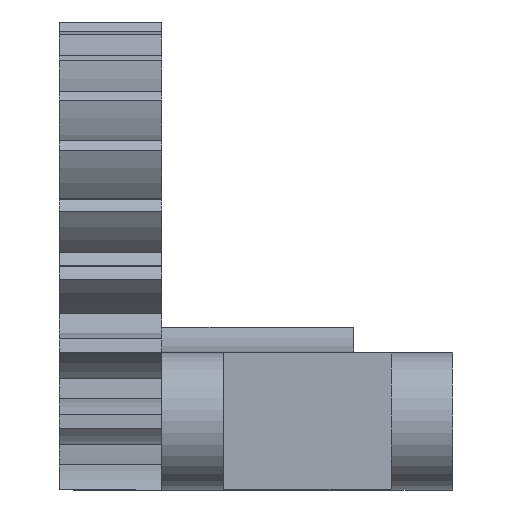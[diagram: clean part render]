
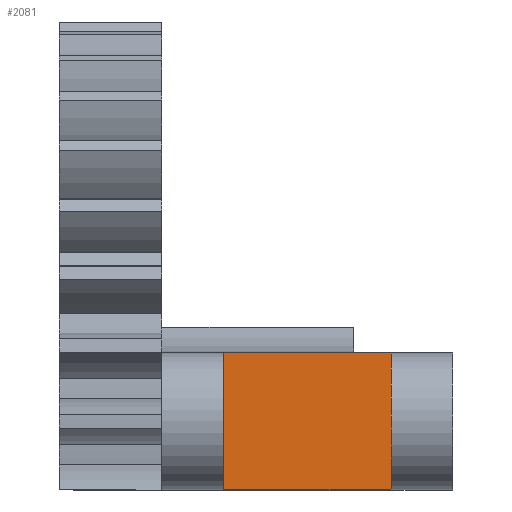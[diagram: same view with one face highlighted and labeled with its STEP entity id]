
A CAD part, front view. The second image highlights one B-rep face of the part: STEP entity #2081.
In plain terms, the highlighted planar face has unit normal (0, -1, 0).
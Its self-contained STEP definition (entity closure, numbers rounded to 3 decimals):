
#43 = EDGE_CURVE ( 'NONE', #2373, #48, #1715, .T. ) ;
#48 = VERTEX_POINT ( 'NONE', #1508 ) ;
#93 = CARTESIAN_POINT ( 'NONE',  ( -12., 12., -5.4 ) ) ;
#112 = DIRECTION ( 'NONE',  ( -1., 0., 0. ) ) ;
#145 = VERTEX_POINT ( 'NONE', #2999 ) ;
#227 = VECTOR ( 'NONE', #112, 1000. ) ;
#321 = ORIENTED_EDGE ( 'NONE', *, *, #405, .T. ) ;
#322 = VECTOR ( 'NONE', #2928, 1000. ) ;
#345 = EDGE_CURVE ( 'NONE', #1462, #48, #1234, .T. ) ;
#369 = DIRECTION ( 'NONE',  ( 0., 0., 1. ) ) ;
#405 = EDGE_CURVE ( 'NONE', #1462, #145, #2063, .T. ) ;
#429 = FACE_OUTER_BOUND ( 'NONE', #1513, .T. ) ;
#492 = AXIS2_PLACEMENT_3D ( 'NONE', #2356, #1728, #1238 ) ;
#610 = EDGE_CURVE ( 'NONE', #145, #2373, #1730, .T. ) ;
#771 = CARTESIAN_POINT ( 'NONE',  ( 8., 12., -5.4 ) ) ;
#786 = ORIENTED_EDGE ( 'NONE', *, *, #345, .F. ) ;
#1224 = CARTESIAN_POINT ( 'NONE',  ( -12., 12., -20.1 ) ) ;
#1234 = LINE ( 'NONE', #2196, #227 ) ;
#1238 = DIRECTION ( 'NONE',  ( 1., 0., 0. ) ) ;
#1395 = PLANE ( 'NONE',  #492 ) ;
#1462 = VERTEX_POINT ( 'NONE', #3111 ) ;
#1508 = CARTESIAN_POINT ( 'NONE',  ( -12., 12., -20.1 ) ) ;
#1513 = EDGE_LOOP ( 'NONE', ( #321, #3080, #2386, #786 ) ) ;
#1534 = VECTOR ( 'NONE', #2204, 1000. ) ;
#1715 = LINE ( 'NONE', #1224, #322 ) ;
#1728 = DIRECTION ( 'NONE',  ( 0., 1., 0. ) ) ;
#1730 = LINE ( 'NONE', #771, #1534 ) ;
#2046 = CARTESIAN_POINT ( 'NONE',  ( 0., 12., 0. ) ) ;
#2063 = LINE ( 'NONE', #2046, #2947 ) ;
#2081 = ADVANCED_FACE ( 'NONE', ( #429 ), #1395, .F. ) ;
#2196 = CARTESIAN_POINT ( 'NONE',  ( 8., 12., -20.1 ) ) ;
#2204 = DIRECTION ( 'NONE',  ( -1., 0., 0. ) ) ;
#2356 = CARTESIAN_POINT ( 'NONE',  ( 8., 12., -20.1 ) ) ;
#2373 = VERTEX_POINT ( 'NONE', #93 ) ;
#2386 = ORIENTED_EDGE ( 'NONE', *, *, #43, .T. ) ;
#2928 = DIRECTION ( 'NONE',  ( 0., 0., -1. ) ) ;
#2947 = VECTOR ( 'NONE', #369, 1000. ) ;
#2999 = CARTESIAN_POINT ( 'NONE',  ( 0., 12., -5.4 ) ) ;
#3080 = ORIENTED_EDGE ( 'NONE', *, *, #610, .T. ) ;
#3111 = CARTESIAN_POINT ( 'NONE',  ( 0., 12., -20.1 ) ) ;
